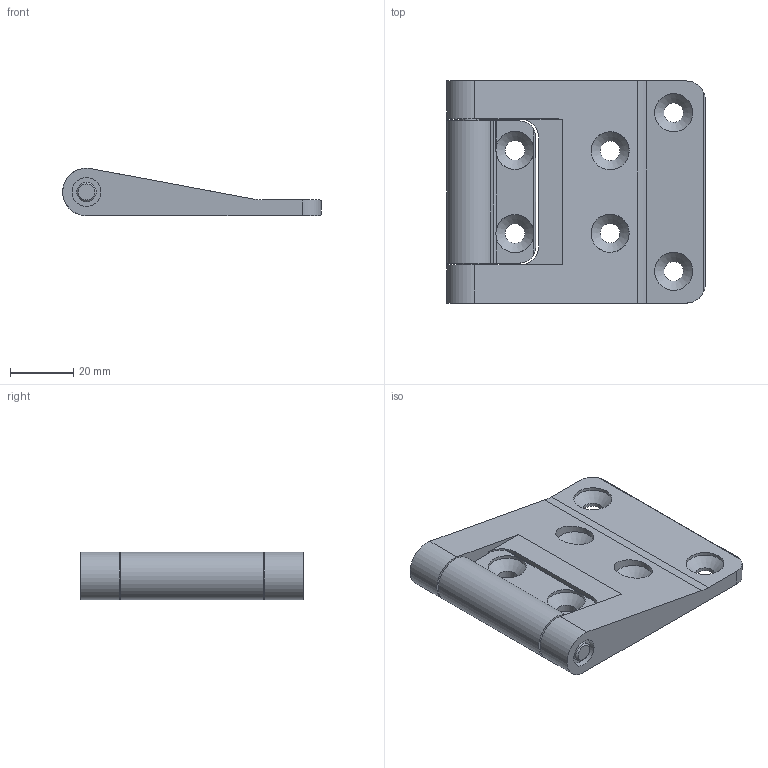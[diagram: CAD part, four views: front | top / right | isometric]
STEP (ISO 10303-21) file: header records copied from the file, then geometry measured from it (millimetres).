
FILE_DESCRIPTION(/* description */ (''),/* implementation_level */ '2;1');
FILE_NAME(/* name */ 'KH-170BP.stp',/* time_stamp */ '2019-10-04T14:49:06+09:00',/* author */ (''),/* organization */ (''),/* preprocessor_version */ 'ST-DEVELOPER v14',/* originating_system */ 'SIEMENS PLM Software NX 8.0',/* authorisation */ '');
FILE_SCHEMA (('AUTOMOTIVE_DESIGN { 1 0 10303 214 3 1 1 1 }'));
Length unit declared in the file: millimetre
Products named in the file (1): 170-A
Bounding box: 81.5 x 70 x 15 mm (x, y, z)
Volume: 45177.4 mm3; surface area: 18192.5 mm2
Topology: 2 solids, 2 shells, 63 faces, 166 edges, 109 vertices
Faces by surface type: cylinder 33, plane 22, cone 8
Full cylindrical faces by diameter (mm): 6.1 x4, 6.2 x6, 9.1 x2, 12 x6
Entity records: 1984 total; most frequent: CARTESIAN_POINT 367, DIRECTION 307, ORIENTED_EDGE 254, EDGE_CURVE 127, AXIS2_PLACEMENT_3D 126, EDGE_LOOP 107, VERTEX_POINT 96, FACE_BOUND 82
